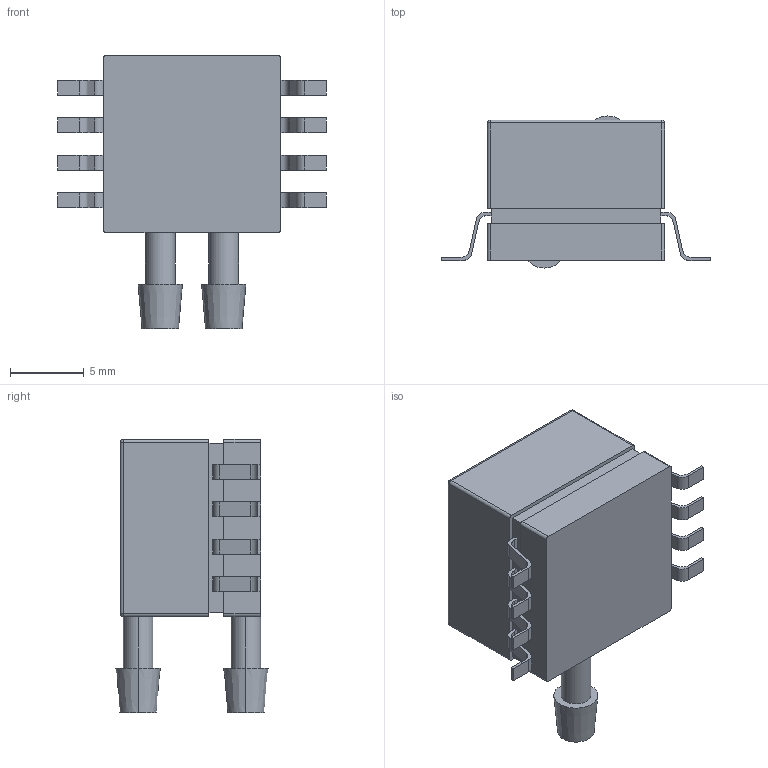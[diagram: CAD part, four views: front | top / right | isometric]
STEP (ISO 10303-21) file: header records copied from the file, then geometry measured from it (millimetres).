
FILE_DESCRIPTION (( 'STEP AP214' ), '1' );
FILE_NAME ('MP3V5010_1351.STEP', '2020-05-01T22:40:15', ( '' ), ( '' ), 'SwSTEP 2.0', 'SolidWorks 2011', '' );
FILE_SCHEMA (( 'AUTOMOTIVE_DESIGN' ));
Length unit declared in the file: millimetre
Products named in the file (1): MP3V5010_1351
Bounding box: 18.2 x 10.3 x 18.5 mm (x, y, z)
Volume: 1356.1 mm3; surface area: 1118.6 mm2
Topology: 1 solids, 1 shells, 154 faces, 404 edges, 262 vertices
Faces by surface type: plane 94, cylinder 52, cone 4, sphere 4
Entity records: 5884 total; most frequent: DIRECTION 824, CARTESIAN_POINT 817, ORIENTED_EDGE 800, EDGE_CURVE 400, VECTOR 286, LINE 286, AXIS2_PLACEMENT_3D 269, VERTEX_POINT 262
